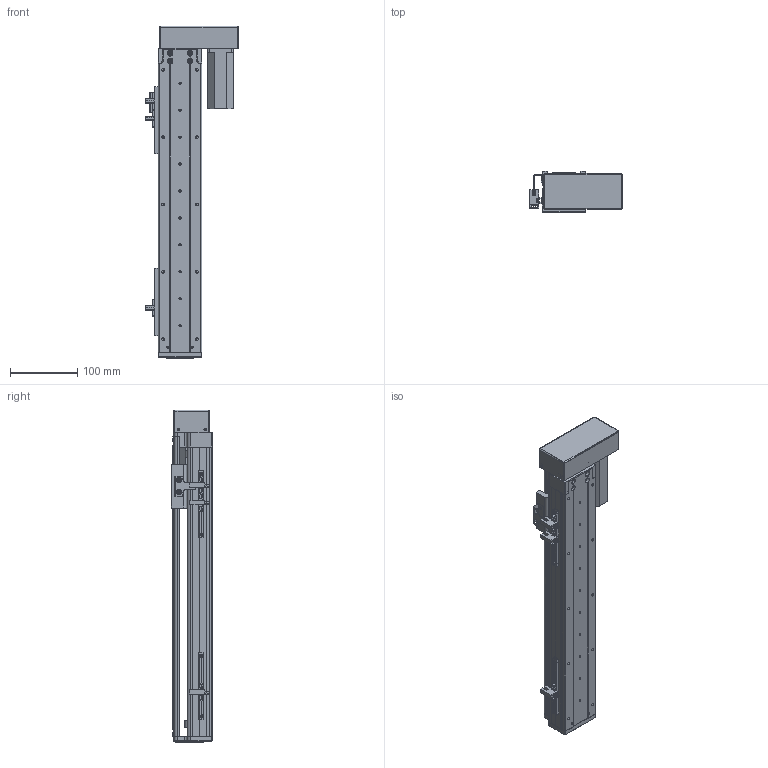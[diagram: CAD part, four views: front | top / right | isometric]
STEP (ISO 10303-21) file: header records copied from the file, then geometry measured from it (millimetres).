
FILE_DESCRIPTION (( 'STEP AP203' ), '1' );
FILE_NAME ('RY60-L1210-300-RK.SLDASM_300.step', '2021-02-20T06:52:22', ( '盈信电脑' ), ( '东莞市道滘镇水果街19号' ), 'SwSTEP 2.0', 'SolidWorks 2012', '' );
FILE_SCHEMA (( 'CONFIG_CONTROL_DESIGN' ));
Length unit declared in the file: millimetre
Products named in the file (13): 覜茼ん672; RY60-L1210-300-RK.SLDASM_300; RY80俋离覜茼え; 672嫖萇羲壽假蚾釱; RY60酘衵殏萇儂欶; 侂狟100W; RY60左右折电机安装板; RY60转折电机端支撑座; RY60綴裔啣; 滅袉蝶18-10; RY60-300倰第裔啣-RK; RY60臏賑輸; RY60-300倰第菁釱-RK
Assembly tree (18 placements, depth 2):
  RY60-L1210-300-RK.SLDASM_300
    RY60-300倰第菁釱-RK
    RY60臏賑輸
    RY60-300倰第裔啣-RK
    RY60綴裔啣
    滅袉蝶18-10  x4
    RY60转折电机端支撑座
    RY60左右折电机安装板
    侂狟100W
    RY60酘衵殏萇儂欶
    RY80俋离覜茼え
    672嫖萇羲壽假蚾釱  x2
    覜茼ん672  x3
Bounding box: 137.9 x 61 x 493 mm (x, y, z)
Volume: 727491.2 mm3; surface area: 359672.9 mm2
Topology: 18 solids, 18 shells, 1403 faces, 3905 edges, 2502 vertices
Faces by surface type: plane 705, cylinder 577, cone 104, bspline 17
Entity records: 41396 total; most frequent: CARTESIAN_POINT 9639, ORIENTED_EDGE 6386, DIRECTION 6211, EDGE_CURVE 3193, AXIS2_PLACEMENT_3D 2124, VERTEX_POINT 2082, LINE 1963, VECTOR 1963
